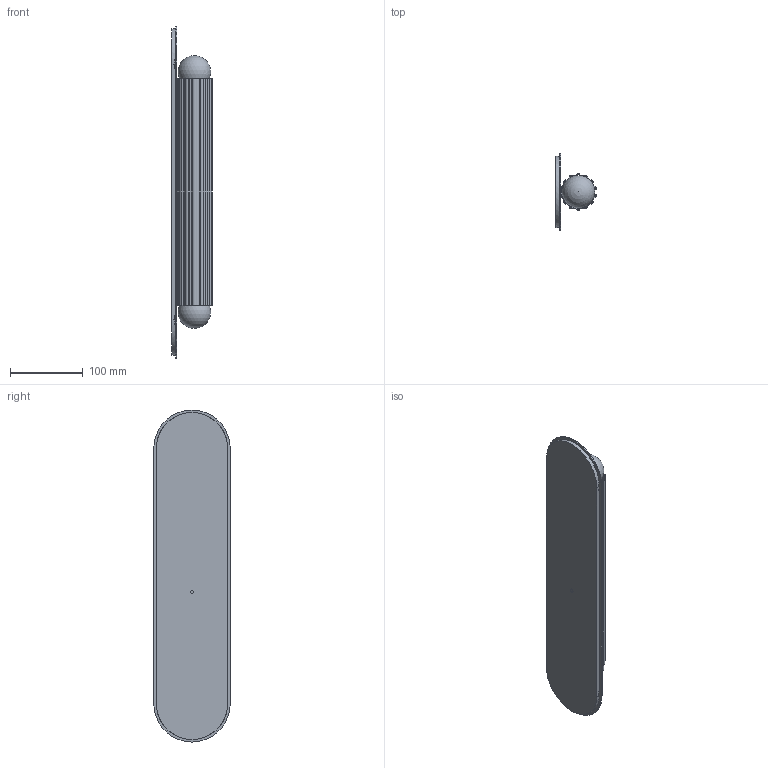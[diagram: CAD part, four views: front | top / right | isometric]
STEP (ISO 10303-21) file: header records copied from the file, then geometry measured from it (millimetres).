
FILE_DESCRIPTION(/* description */ (''),/* implementation_level */ '2;1');
FILE_NAME(/* name */ 'B726 Westa 1 LG.stp',/* time_stamp */ '2025-05-22T14:36:50+02:00',/* author */ ('Lukasz'),/* organization */ (''),/* preprocessor_version */ 'ST-DEVELOPER v20.1',/* originating_system */ 'Autodesk Inventor 2026',/* authorisation */ '');
FILE_SCHEMA (('AUTOMOTIVE_DESIGN { 1 0 10303 214 3 1 1 }'));
Length unit declared in the file: millimetre
Products named in the file (1): B726 Westa 1 LG
Bounding box: 55.2 x 105 x 456 mm (x, y, z)
Volume: 437384.2 mm3; surface area: 301905.1 mm2
Topology: 10 solids, 10 shells, 201 faces, 531 edges, 350 vertices
Faces by surface type: plane 92, cylinder 83, cone 10, torus 10, bspline 4, sphere 2
Full cylindrical faces by diameter (mm): 2.693 x2, 3 x2, 4.917 x1, 5.5 x2, 6 x1, 10 x2, 10.5 x1, 12 x2, 17 x2
Entity records: 6952 total; most frequent: CARTESIAN_POINT 1513, DIRECTION 1121, ORIENTED_EDGE 1058, EDGE_CURVE 529, AXIS2_PLACEMENT_3D 416, VERTEX_POINT 350, LINE 289, VECTOR 289
